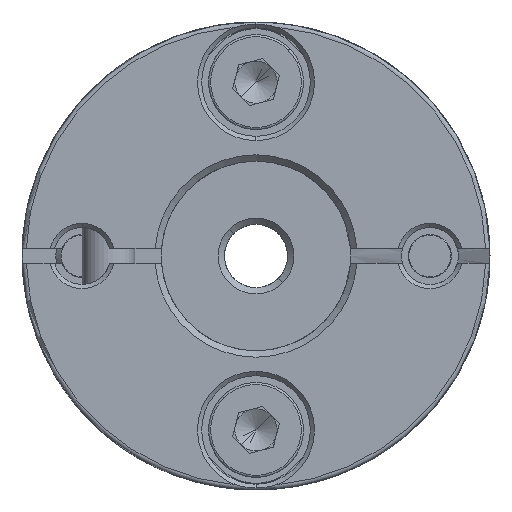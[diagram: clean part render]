
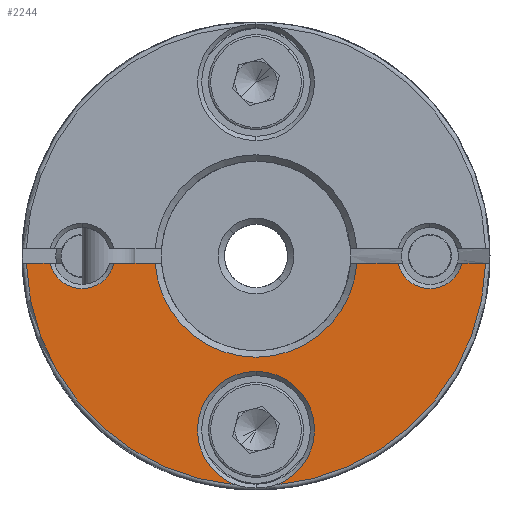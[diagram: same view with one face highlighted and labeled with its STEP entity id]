
A CAD part, front view. The second image highlights one B-rep face of the part: STEP entity #2244.
In plain terms, the highlighted planar face has unit normal (0, -1, 0).
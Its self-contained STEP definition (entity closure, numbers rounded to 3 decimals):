
#40 = LINE ( 'NONE', #1280, #42 ) ;
#41 = CIRCLE ( 'NONE', #18875, 4.8 ) ;
#42 = VECTOR ( 'NONE', #1282, 1000. ) ;
#43 = CIRCLE ( 'NONE', #18876, 1.55 ) ;
#44 = CIRCLE ( 'NONE', #18877, 10.9 ) ;
#45 = CIRCLE ( 'NONE', #18878, 2.775 ) ;
#46 = CIRCLE ( 'NONE', #18879, 10.9 ) ;
#47 = LINE ( 'NONE', #1298, #49 ) ;
#48 = CIRCLE ( 'NONE', #18880, 1.55 ) ;
#49 = VECTOR ( 'NONE', #1299, 1000. ) ;
#601 = VERTEX_POINT ( 'NONE', #14765 ) ;
#602 = VERTEX_POINT ( 'NONE', #14770 ) ;
#611 = VERTEX_POINT ( 'NONE', #14776 ) ;
#620 = VERTEX_POINT ( 'NONE', #14785 ) ;
#622 = VERTEX_POINT ( 'NONE', #14787 ) ;
#623 = VERTEX_POINT ( 'NONE', #14788 ) ;
#630 = VERTEX_POINT ( 'NONE', #14795 ) ;
#632 = VERTEX_POINT ( 'NONE', #14797 ) ;
#643 = VERTEX_POINT ( 'NONE', #14807 ) ;
#1280 = CARTESIAN_POINT ( 'NONE',  ( 0., -10.95, -0.35 ) ) ;
#1282 = DIRECTION ( 'NONE',  ( -1., 0., 0. ) ) ;
#1289 = CARTESIAN_POINT ( 'NONE',  ( 0., -10.95, 0. ) ) ;
#1290 = DIRECTION ( 'NONE',  ( 0., 1., 0. ) ) ;
#1291 = DIRECTION ( 'NONE',  ( 1., 0., 0. ) ) ;
#1292 = CARTESIAN_POINT ( 'NONE',  ( -8.25, -10.95, 0. ) ) ;
#1293 = DIRECTION ( 'NONE',  ( 0., 1., 0. ) ) ;
#1294 = DIRECTION ( 'NONE',  ( 0., 0., 1. ) ) ;
#1295 = CARTESIAN_POINT ( 'NONE',  ( 0., -10.95, 0. ) ) ;
#1296 = DIRECTION ( 'NONE',  ( 0., -1., 0. ) ) ;
#1297 = DIRECTION ( 'NONE',  ( 0., 0., 1. ) ) ;
#1298 = CARTESIAN_POINT ( 'NONE',  ( 0., -10.95, -0.35 ) ) ;
#1299 = DIRECTION ( 'NONE',  ( -1., 0., 0. ) ) ;
#1300 = CARTESIAN_POINT ( 'NONE',  ( 0., -10.95, -8.25 ) ) ;
#1301 = DIRECTION ( 'NONE',  ( 0., 1., 0. ) ) ;
#1302 = DIRECTION ( 'NONE',  ( 0., 0., 1. ) ) ;
#1303 = CARTESIAN_POINT ( 'NONE',  ( 0., -10.95, 0. ) ) ;
#1304 = DIRECTION ( 'NONE',  ( 0., -1., 0. ) ) ;
#1305 = DIRECTION ( 'NONE',  ( 0., 0., 1. ) ) ;
#1308 = CARTESIAN_POINT ( 'NONE',  ( 8.25, -10.95, 0. ) ) ;
#1309 = DIRECTION ( 'NONE',  ( 0., 1., 0. ) ) ;
#1310 = DIRECTION ( 'NONE',  ( 0., 0., 1. ) ) ;
#2244 = ADVANCED_FACE ( 'NONE', ( #5313 ), #17581, .T. ) ;
#4231 = CARTESIAN_POINT ( 'NONE',  ( 0., -10.95, -0.35 ) ) ;
#4232 = DIRECTION ( 'NONE',  ( -1., 0., 0. ) ) ;
#4264 = CARTESIAN_POINT ( 'NONE',  ( 0., -10.95, -0.35 ) ) ;
#4265 = DIRECTION ( 'NONE',  ( -1., 0., 0. ) ) ;
#5313 = FACE_OUTER_BOUND ( 'NONE', #13908, .T. ) ;
#6387 = CIRCLE ( 'NONE', #18778, 2.775 ) ;
#6578 = LINE ( 'NONE', #4231, #6581 ) ;
#6581 = VECTOR ( 'NONE', #4232, 1000. ) ;
#6593 = LINE ( 'NONE', #4264, #6594 ) ;
#6594 = VECTOR ( 'NONE', #4265, 1000. ) ;
#6798 = EDGE_CURVE ( 'NONE', #20707, #20706, #6387, .T. ) ;
#6943 = EDGE_CURVE ( 'NONE', #643, #632, #6578, .T. ) ;
#6954 = EDGE_CURVE ( 'NONE', #630, #602, #6593, .T. ) ;
#6994 = EDGE_CURVE ( 'NONE', #623, #620, #40, .T. ) ;
#6995 = EDGE_CURVE ( 'NONE', #620, #643, #41, .T. ) ;
#6996 = EDGE_CURVE ( 'NONE', #632, #630, #43, .T. ) ;
#6997 = EDGE_CURVE ( 'NONE', #602, #601, #44, .T. ) ;
#6998 = EDGE_CURVE ( 'NONE', #601, #20707, #45, .T. ) ;
#6999 = EDGE_CURVE ( 'NONE', #20706, #622, #46, .T. ) ;
#7000 = EDGE_CURVE ( 'NONE', #622, #611, #47, .T. ) ;
#7001 = EDGE_CURVE ( 'NONE', #611, #623, #48, .T. ) ;
#7550 = CARTESIAN_POINT ( 'NONE',  ( 0.946, -10.95, -10.859 ) ) ;
#7551 = CARTESIAN_POINT ( 'NONE',  ( 0., -10.95, -5.475 ) ) ;
#12819 = AXIS2_PLACEMENT_3D ( 'NONE', #17584, #17585, #17586 ) ;
#13908 = EDGE_LOOP ( 'NONE', ( #20533, #20534, #20374, #20445, #20340, #20552, #19871, #20870, #19781, #20530, #19962 ) ) ;
#14765 = CARTESIAN_POINT ( 'NONE',  ( -0.946, -10.95, -10.859 ) ) ;
#14770 = CARTESIAN_POINT ( 'NONE',  ( -10.894, -10.95, -0.35 ) ) ;
#14776 = CARTESIAN_POINT ( 'NONE',  ( 9.76, -10.95, -0.35 ) ) ;
#14785 = CARTESIAN_POINT ( 'NONE',  ( 4.787, -10.95, -0.35 ) ) ;
#14787 = CARTESIAN_POINT ( 'NONE',  ( 10.894, -10.95, -0.35 ) ) ;
#14788 = CARTESIAN_POINT ( 'NONE',  ( 6.74, -10.95, -0.35 ) ) ;
#14795 = CARTESIAN_POINT ( 'NONE',  ( -9.76, -10.95, -0.35 ) ) ;
#14797 = CARTESIAN_POINT ( 'NONE',  ( -6.74, -10.95, -0.35 ) ) ;
#14807 = CARTESIAN_POINT ( 'NONE',  ( -4.787, -10.95, -0.35 ) ) ;
#17581 = PLANE ( 'NONE',  #12819 ) ;
#17584 = CARTESIAN_POINT ( 'NONE',  ( 0., -10.95, 0. ) ) ;
#17585 = DIRECTION ( 'NONE',  ( 0., -1., 0. ) ) ;
#17586 = DIRECTION ( 'NONE',  ( 0., 0., 1. ) ) ;
#18778 = AXIS2_PLACEMENT_3D ( 'NONE', #22191, #22192, #22194 ) ;
#18875 = AXIS2_PLACEMENT_3D ( 'NONE', #1289, #1290, #1291 ) ;
#18876 = AXIS2_PLACEMENT_3D ( 'NONE', #1292, #1293, #1294 ) ;
#18877 = AXIS2_PLACEMENT_3D ( 'NONE', #1295, #1296, #1297 ) ;
#18878 = AXIS2_PLACEMENT_3D ( 'NONE', #1300, #1301, #1302 ) ;
#18879 = AXIS2_PLACEMENT_3D ( 'NONE', #1303, #1304, #1305 ) ;
#18880 = AXIS2_PLACEMENT_3D ( 'NONE', #1308, #1309, #1310 ) ;
#19781 = ORIENTED_EDGE ( 'NONE', *, *, #6999, .T. ) ;
#19871 = ORIENTED_EDGE ( 'NONE', *, *, #6998, .T. ) ;
#19962 = ORIENTED_EDGE ( 'NONE', *, *, #7001, .T. ) ;
#20340 = ORIENTED_EDGE ( 'NONE', *, *, #6954, .T. ) ;
#20374 = ORIENTED_EDGE ( 'NONE', *, *, #6943, .T. ) ;
#20445 = ORIENTED_EDGE ( 'NONE', *, *, #6996, .T. ) ;
#20530 = ORIENTED_EDGE ( 'NONE', *, *, #7000, .T. ) ;
#20533 = ORIENTED_EDGE ( 'NONE', *, *, #6994, .T. ) ;
#20534 = ORIENTED_EDGE ( 'NONE', *, *, #6995, .T. ) ;
#20552 = ORIENTED_EDGE ( 'NONE', *, *, #6997, .T. ) ;
#20706 = VERTEX_POINT ( 'NONE', #7550 ) ;
#20707 = VERTEX_POINT ( 'NONE', #7551 ) ;
#20870 = ORIENTED_EDGE ( 'NONE', *, *, #6798, .T. ) ;
#22191 = CARTESIAN_POINT ( 'NONE',  ( 0., -10.95, -8.25 ) ) ;
#22192 = DIRECTION ( 'NONE',  ( 0., 1., 0. ) ) ;
#22194 = DIRECTION ( 'NONE',  ( 0., 0., 1. ) ) ;
